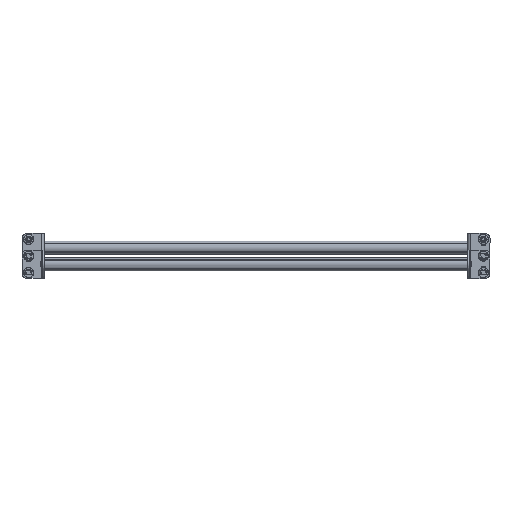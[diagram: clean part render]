
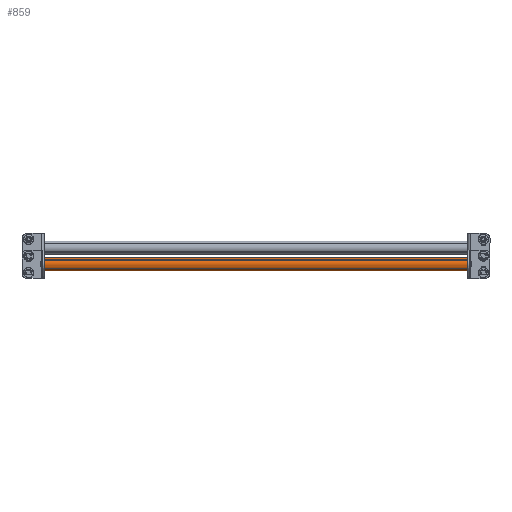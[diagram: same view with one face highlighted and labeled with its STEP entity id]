
A CAD part, front view. The second image highlights one B-rep face of the part: STEP entity #859.
In plain terms, the highlighted cylindrical face has radius 14 mm (diameter 28 mm), a full revolution.
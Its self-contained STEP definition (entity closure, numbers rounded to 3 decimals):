
#859=ADVANCED_FACE('',(#1460,#1461),#1462,.T.);
#1460=FACE_OUTER_BOUND('',#2262,.T.);
#1461=FACE_OUTER_BOUND('',#2263,.T.);
#1462=CYLINDRICAL_SURFACE('',#2264,14.0);
#2262=EDGE_LOOP('',(#3221));
#2263=EDGE_LOOP('',(#3222));
#2264=AXIS2_PLACEMENT_3D('',#3223,#3224,#3225);
#3221=ORIENTED_EDGE('',*,*,#5364,.T.);
#3222=ORIENTED_EDGE('',*,*,#5365,.T.);
#3223=CARTESIAN_POINT('',(50000.0,-582.5,984.0));
#3224=DIRECTION('',(-1.0,0.0,0.0));
#3225=DIRECTION('',(0.0,-1.0,0.0));
#5364=EDGE_CURVE('',#6332,#6332,#6333,.T.);
#5365=EDGE_CURVE('',#6334,#6334,#6335,.T.);
#6332=VERTEX_POINT('',#7765);
#6333=CIRCLE('',#7766,14.0);
#6334=VERTEX_POINT('',#7767);
#6335=CIRCLE('',#7768,14.0);
#7765=CARTESIAN_POINT('',(-447.0,-568.5,984.0));
#7766=AXIS2_PLACEMENT_3D('',#9541,#9542,#9543);
#7767=CARTESIAN_POINT('',(447.0,-596.5,984.0));
#7768=AXIS2_PLACEMENT_3D('',#9544,#9545,#9546);
#9541=CARTESIAN_POINT('',(-447.0,-582.5,984.0));
#9542=DIRECTION('',(1.0,0.,0.));
#9543=DIRECTION('',(0.,1.0,0.0));
#9544=CARTESIAN_POINT('',(447.0,-582.5,984.0));
#9545=DIRECTION('',(-1.0,0.,0.));
#9546=DIRECTION('',(0.,-1.0,0.0));
